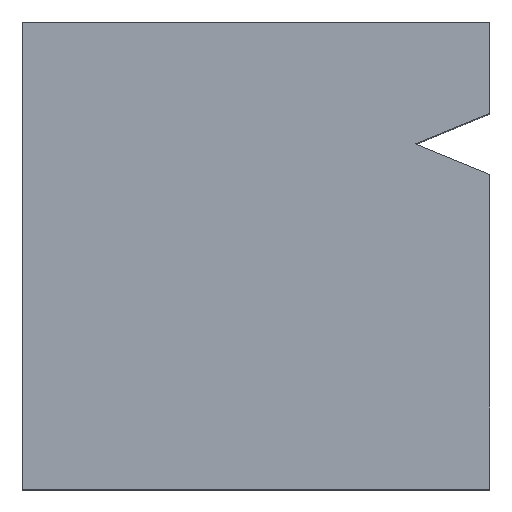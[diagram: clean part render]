
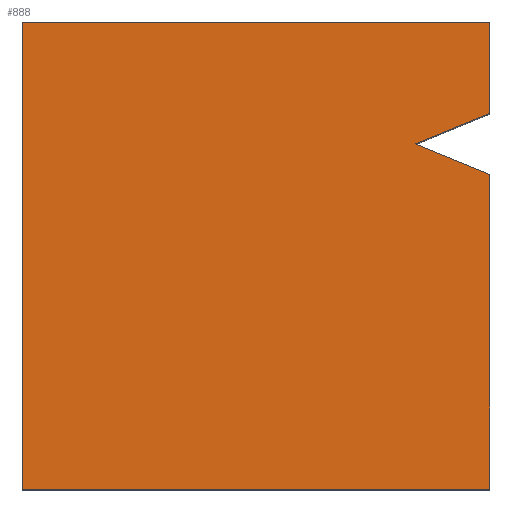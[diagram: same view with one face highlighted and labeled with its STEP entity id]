
A CAD part, top view. The second image highlights one B-rep face of the part: STEP entity #888.
In plain terms, the highlighted planar face has unit normal (0, 0, 1).
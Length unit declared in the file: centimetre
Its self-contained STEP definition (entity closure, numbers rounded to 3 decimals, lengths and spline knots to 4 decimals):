
#18 = VERTEX_POINT ( 'NONE', #673 ) ;
#22 = ORIENTED_EDGE ( 'NONE', *, *, #600, .T. ) ;
#33 = LINE ( 'NONE', #970, #585 ) ;
#43 = LINE ( 'NONE', #1131, #722 ) ;
#47 = VECTOR ( 'NONE', #676, 100. ) ;
#55 = FACE_OUTER_BOUND ( 'NONE', #1025, .T. ) ;
#74 = CARTESIAN_POINT ( 'NONE',  ( 0., 1000., 1000. ) ) ;
#143 = CARTESIAN_POINT ( 'NONE',  ( 1000., 0., 1000. ) ) ;
#156 = CARTESIAN_POINT ( 'NONE',  ( 841.2436, 739.0376, 1000. ) ) ;
#161 = DIRECTION ( 'NONE',  ( 0., 0., 1. ) ) ;
#164 = LINE ( 'NONE', #833, #684 ) ;
#173 = ORIENTED_EDGE ( 'NONE', *, *, #725, .T. ) ;
#214 = ORIENTED_EDGE ( 'NONE', *, *, #717, .T. ) ;
#259 = CARTESIAN_POINT ( 'NONE',  ( 1000., 804.4345, 1000. ) ) ;
#287 = CARTESIAN_POINT ( 'NONE',  ( 1000., 1000., 1000. ) ) ;
#312 = VERTEX_POINT ( 'NONE', #259 ) ;
#324 = DIRECTION ( 'NONE',  ( -1., 0., 0. ) ) ;
#332 = EDGE_CURVE ( 'NONE', #312, #777, #1037, .T. ) ;
#333 = AXIS2_PLACEMENT_3D ( 'NONE', #831, #161, #651 ) ;
#416 = VERTEX_POINT ( 'NONE', #672 ) ;
#447 = PLANE ( 'NONE',  #333 ) ;
#480 = ORIENTED_EDGE ( 'NONE', *, *, #332, .F. ) ;
#498 = CARTESIAN_POINT ( 'NONE',  ( 0., 1000., 1000. ) ) ;
#503 = VECTOR ( 'NONE', #634, 100. ) ;
#585 = VECTOR ( 'NONE', #1000, 100. ) ;
#600 = EDGE_CURVE ( 'NONE', #312, #1201, #164, .T. ) ;
#630 = CARTESIAN_POINT ( 'NONE',  ( 841.2436, 739.0376, 1000. ) ) ;
#634 = DIRECTION ( 'NONE',  ( -0.925, -0.381, 0. ) ) ;
#642 = EDGE_CURVE ( 'NONE', #777, #416, #33, .T. ) ;
#651 = DIRECTION ( 'NONE',  ( 1., 0., 0. ) ) ;
#672 = CARTESIAN_POINT ( 'NONE',  ( 1000., 673.6408, 1000. ) ) ;
#673 = CARTESIAN_POINT ( 'NONE',  ( 0., 0., 1000. ) ) ;
#676 = DIRECTION ( 'NONE',  ( 1., 0., 0. ) ) ;
#684 = VECTOR ( 'NONE', #1223, 100. ) ;
#701 = CARTESIAN_POINT ( 'NONE',  ( 0., 0., 1000. ) ) ;
#713 = ORIENTED_EDGE ( 'NONE', *, *, #835, .T. ) ;
#717 = EDGE_CURVE ( 'NONE', #18, #864, #1075, .T. ) ;
#722 = VECTOR ( 'NONE', #1013, 100. ) ;
#725 = EDGE_CURVE ( 'NONE', #1201, #968, #1094, .T. ) ;
#777 = VERTEX_POINT ( 'NONE', #156 ) ;
#831 = CARTESIAN_POINT ( 'NONE',  ( 0., 0., 1000. ) ) ;
#833 = CARTESIAN_POINT ( 'NONE',  ( 1000., 1000., 1000. ) ) ;
#835 = EDGE_CURVE ( 'NONE', #864, #416, #43, .T. ) ;
#864 = VERTEX_POINT ( 'NONE', #143 ) ;
#888 = ADVANCED_FACE ( 'NONE', ( #55 ), #447, .T. ) ;
#910 = VECTOR ( 'NONE', #956, 100. ) ;
#956 = DIRECTION ( 'NONE',  ( 0., -1., 0. ) ) ;
#968 = VERTEX_POINT ( 'NONE', #74 ) ;
#970 = CARTESIAN_POINT ( 'NONE',  ( 1000., 673.6408, 1000. ) ) ;
#980 = LINE ( 'NONE', #498, #910 ) ;
#1000 = DIRECTION ( 'NONE',  ( 0.925, -0.381, 0. ) ) ;
#1005 = ORIENTED_EDGE ( 'NONE', *, *, #1197, .T. ) ;
#1013 = DIRECTION ( 'NONE',  ( 0., 1., 0. ) ) ;
#1025 = EDGE_LOOP ( 'NONE', ( #1043, #480, #22, #173, #1005, #214, #713 ) ) ;
#1037 = LINE ( 'NONE', #630, #503 ) ;
#1043 = ORIENTED_EDGE ( 'NONE', *, *, #642, .F. ) ;
#1075 = LINE ( 'NONE', #701, #47 ) ;
#1094 = LINE ( 'NONE', #1260, #1207 ) ;
#1131 = CARTESIAN_POINT ( 'NONE',  ( 1000., 1000., 1000. ) ) ;
#1197 = EDGE_CURVE ( 'NONE', #968, #18, #980, .T. ) ;
#1201 = VERTEX_POINT ( 'NONE', #287 ) ;
#1207 = VECTOR ( 'NONE', #324, 100. ) ;
#1223 = DIRECTION ( 'NONE',  ( 0., 1., 0. ) ) ;
#1260 = CARTESIAN_POINT ( 'NONE',  ( 0., 1000., 1000. ) ) ;
